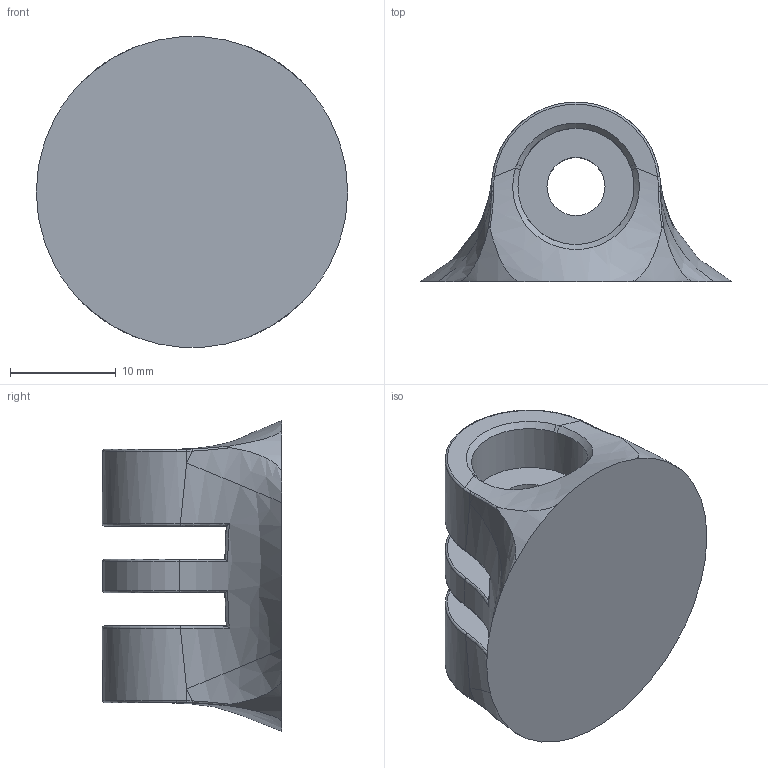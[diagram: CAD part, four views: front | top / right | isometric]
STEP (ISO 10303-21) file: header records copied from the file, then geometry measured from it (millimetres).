
FILE_DESCRIPTION(/* description */ (''),/* implementation_level */ '2;1');
FILE_NAME(/* name */ 'GoPro Mount Base.step',/* time_stamp */ '2025-07-12T15:24:42+02:00',/* author */ (''),/* organization */ (''),/* preprocessor_version */ 'ST-DEVELOPER v20.1',/* originating_system */ 'Autodesk Translation Framework v14.4.0.0',/* authorisation */ '');
FILE_SCHEMA (('AUTOMOTIVE_DESIGN { 1 0 10303 214 3 1 1 }'));
Length unit declared in the file: millimetre
Products named in the file (1): (Nicht gespeichert)
Bounding box: 29.5 x 17 x 29.42 mm (x, y, z)
Volume: 4547.1 mm3; surface area: 3386.8 mm2
Topology: 1 solids, 1 shells, 92 faces, 248 edges, 156 vertices
Faces by surface type: bspline 49, plane 23, cylinder 13, torus 6, cone 1
Full cylindrical faces by diameter (mm): 5.5 x3, 11 x1
Entity records: 4616 total; most frequent: CARTESIAN_POINT 2666, ORIENTED_EDGE 492, DIRECTION 249, EDGE_CURVE 246, VERTEX_POINT 156, B_SPLINE_CURVE_WITH_KNOTS 146, AXIS2_PLACEMENT_3D 105, EDGE_LOOP 98
